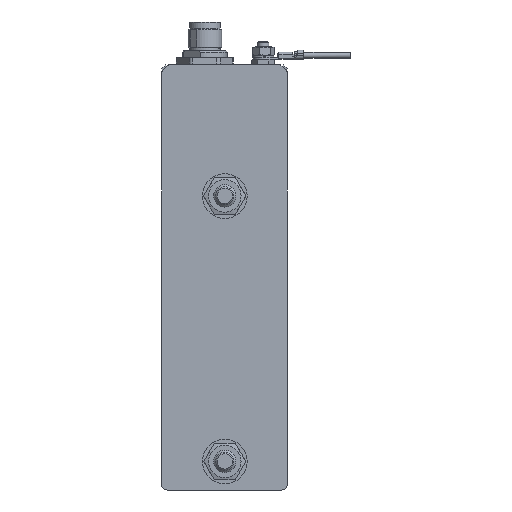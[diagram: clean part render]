
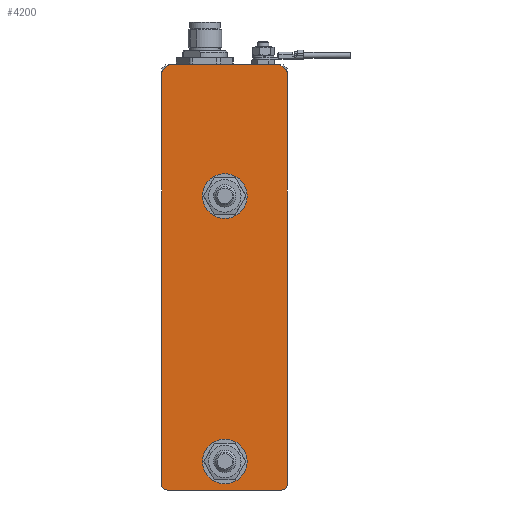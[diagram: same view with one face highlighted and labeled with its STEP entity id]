
A CAD part, top view. The second image highlights one B-rep face of the part: STEP entity #4200.
In plain terms, the highlighted planar face has unit normal (0, 0, 1).
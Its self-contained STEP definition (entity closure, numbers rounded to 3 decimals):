
#4200=ADVANCED_FACE('', (#4210,#4220,#4230), #4240, .T.);
#25350=AXIS2_PLACEMENT_3D('Ax2Pl3d', #25360, #25370, #25380);
#25430=AXIS2_PLACEMENT_3D('Ax2Pl3d', #25440, #25450, #25460);
#25670=AXIS2_PLACEMENT_3D('Ax2Pl3d', #25680, #25690, #25700);
#25710=AXIS2_PLACEMENT_3D('Ax2Pl3d', #25720, #25730, #25740);
#25750=AXIS2_PLACEMENT_3D('Ax2Pl3d', #25760, #25770, #25780);
#25790=AXIS2_PLACEMENT_3D('Ax2Pl3d', #25800, #25810, #25820);
#25830=AXIS2_PLACEMENT_3D('Ax2Pl3d', #25840, #25850, #25860);
#25870=AXIS2_PLACEMENT_3D('Ax2Pl3d', #25880, #25890, #25900);
#25910=AXIS2_PLACEMENT_3D('Ax2Pl3d', #25920, #25930, #25940);
#223910=CARTESIAN_POINT('', (131.169,79.78,103.854))
;
#223920=CARTESIAN_POINT('', (172.169,79.78,103.854))
;
#223930=CARTESIAN_POINT('', (131.169,79.78,103.854))
;
#25360=CARTESIAN_POINT('HicPkt', (131.169,81.78,
103.854));
#224180=CARTESIAN_POINT('', (129.169,81.78,103.854));
#224210=CARTESIAN_POINT('', (174.169,81.78,103.854))
;
#25440=CARTESIAN_POINT('HicPkt', (172.169,81.78,
103.854));
#224240=CARTESIAN_POINT('', (129.169,229.069,103.854))
;
#224280=CARTESIAN_POINT('', (129.169,81.78,103.854));
#224350=CARTESIAN_POINT('', (174.169,229.069,103.854))
;
#224370=CARTESIAN_POINT('', (174.169,81.78,103.854));
#25680=CARTESIAN_POINT('HicPkt', (129.169,229.069,
103.854));
#25720=CARTESIAN_POINT('HicPkt', (173.169,229.069,
103.854));
#224390=CARTESIAN_POINT('', (173.867,229.785,103.854))
;
#224400=CARTESIAN_POINT('', (173.867,229.785,103.854))
;
#224410=CARTESIAN_POINT('', (171.908,231.696,103.854))
;
#25760=CARTESIAN_POINT('HicPkt', (171.21,230.98,
103.854));
#224420=CARTESIAN_POINT('', (171.21,231.98,103.854));
#224430=CARTESIAN_POINT('', (132.129,231.98,103.854));
#224440=CARTESIAN_POINT('', (132.129,231.98,103.854))
;
#25800=CARTESIAN_POINT('HicPkt', (132.129,230.98,
103.854));
#224450=CARTESIAN_POINT('', (131.431,231.696,103.854))
;
#224460=CARTESIAN_POINT('', (131.431,231.696,103.854))
;
#224470=CARTESIAN_POINT('', (129.471,229.785,103.854))
;
#25840=CARTESIAN_POINT('HicPkt', (130.169,229.069,
103.854));
#25880=CARTESIAN_POINT('HicPkt', (151.794,184.98,
103.854));
#224480=CARTESIAN_POINT('', (151.794,189.48,103.854))
;
#25920=CARTESIAN_POINT('HicPkt', (151.794,89.98,
103.854));
#224490=CARTESIAN_POINT('', (151.794,94.48,103.854))
;
#234570=CIRCLE('Circle', #25870, 4.5);
#234580=CIRCLE('Circle', #25910, 4.5);
#269310=DIRECTION('', (-1.,0.,0.));
#25370=DIRECTION('Axis', (-0.,-0.,1.));
#25380=DIRECTION('RefDirection', (-0.707,-0.707,0.));
#25450=DIRECTION('Axis', (-0.,-0.,1.));
#25460=DIRECTION('RefDirection', (0.707,-0.707,0.));
#269510=DIRECTION('', (0.,-1.,0.));
#269550=DIRECTION('', (0.,-1.,0.));
#25690=DIRECTION('Axis', (0.,0.,1.));
#25700=DIRECTION('RefDirection', (1.,0.,-0.));
#25730=DIRECTION('Axis', (0.,0.,1.));
#25740=DIRECTION('RefDirection', (0.716,-0.698,0.));
#269570=DIRECTION('', (0.716,-0.698,0.));
#25770=DIRECTION('Axis', (0.,0.,1.));
#25780=DIRECTION('RefDirection', (0.716,-0.698,0.));
#269580=DIRECTION('', (-1.,0.,0.));
#25810=DIRECTION('Axis', (0.,0.,1.));
#25820=DIRECTION('RefDirection', (0.716,0.698,0.));
#269590=DIRECTION('', (0.716,0.698,0.));
#25850=DIRECTION('Axis', (0.,0.,1.));
#25860=DIRECTION('RefDirection', (-0.716,-0.698,0.));
#25890=DIRECTION('Axis', (0.,0.,1.));
#25900=DIRECTION('RefDirection', (1.,0.,-0.));
#25930=DIRECTION('Axis', (0.,0.,1.));
#25940=DIRECTION('RefDirection', (1.,0.,-0.));
#276620=EDGE_CURVE('', #276630, #276640, #276650, .T.);
#277080=EDGE_CURVE('', #277090, #276640, #277100, .T.);
#277160=EDGE_CURVE('', #276630, #277140, #277170, .T.);
#277270=EDGE_CURVE('', #277200, #277090, #277280, .T.);
#277420=EDGE_CURVE('', #277390, #277140, #277430, .T.);
#277460=EDGE_CURVE('', #277390, #277470, #277480, .T.);
#277490=EDGE_CURVE('', #277500, #277470, #277510, .T.);
#277520=EDGE_CURVE('', #277500, #277530, #277540, .T.);
#277550=EDGE_CURVE('', #277530, #277560, #277570, .T.);
#277580=EDGE_CURVE('', #277560, #277590, #277600, .T.);
#277610=EDGE_CURVE('', #277620, #277590, #277630, .T.);
#277640=EDGE_CURVE('', #277620, #277200, #277650, .T.);
#277660=EDGE_CURVE('', #277670, #277670, #234570, .T.);
#277680=EDGE_CURVE('', #277690, #277690, #234580, .T.);
#300070=EDGE_LOOP('Edge_loop', (#300080,#300090,#300100,#300110,#300120,
#300130,#300140,#300150,#300160,#300170,#300180,#300190));
#300200=EDGE_LOOP('Edge_loop', (#300210));
#300220=EDGE_LOOP('Edge_loop', (#300230));
#277100=ELLIPSE('Ellipse', #25350, 2., 2.);
#277170=ELLIPSE('Ellipse', #25430, 2., 2.);
#277480=ELLIPSE('Ellipse', #25710, 1., 1.);
#277540=ELLIPSE('Ellipse', #25750, 1., 1.);
#277600=ELLIPSE('Ellipse', #25790, 1., 1.);
#277650=ELLIPSE('Ellipse', #25830, 1., 1.);
#4220=FACE_BOUND('', #300200, .T.);
#4230=FACE_BOUND('', #300220, .T.);
#4210=FACE_OUTER_BOUND('Face_outer_bound', #300070, .T.);
#276650=LINE('Line', #223910, #329310);
#277280=LINE('Line', #224280, #329510);
#277430=LINE('Line', #224370, #329550);
#277510=LINE('Line', #224400, #329570);
#277570=LINE('Line', #224430, #329580);
#277630=LINE('Line', #224460, #329590);
#300080=ORIENTED_EDGE('', *, *, #277270, .T.);
#300090=ORIENTED_EDGE('', *, *, #277080, .T.);
#300100=ORIENTED_EDGE('', *, *, #276620, .F.);
#300110=ORIENTED_EDGE('', *, *, #277160, .T.);
#300120=ORIENTED_EDGE('', *, *, #277420, .F.);
#300130=ORIENTED_EDGE('', *, *, #277460, .T.);
#300140=ORIENTED_EDGE('', *, *, #277490, .F.);
#300150=ORIENTED_EDGE('', *, *, #277520, .T.);
#300160=ORIENTED_EDGE('', *, *, #277550, .T.);
#300170=ORIENTED_EDGE('', *, *, #277580, .T.);
#300180=ORIENTED_EDGE('', *, *, #277610, .F.);
#300190=ORIENTED_EDGE('', *, *, #277640, .T.);
#300210=ORIENTED_EDGE('', *, *, #277660, .F.);
#300230=ORIENTED_EDGE('', *, *, #277680, .F.);
#4240=PLANE('Plane', #25670);
#329310=VECTOR('', #269310, 41.);
#329510=VECTOR('', #269510, 147.29);
#329550=VECTOR('', #269550, 147.29);
#329570=VECTOR('', #269570, 2.737);
#329580=VECTOR('', #269580, 39.08);
#329590=VECTOR('', #269590, 2.737);
#276630=VERTEX_POINT('', #223920);
#276640=VERTEX_POINT('', #223930);
#277090=VERTEX_POINT('', #224180);
#277140=VERTEX_POINT('', #224210);
#277200=VERTEX_POINT('', #224240);
#277390=VERTEX_POINT('', #224350);
#277470=VERTEX_POINT('', #224390);
#277500=VERTEX_POINT('', #224410);
#277530=VERTEX_POINT('', #224420);
#277560=VERTEX_POINT('', #224440);
#277590=VERTEX_POINT('', #224450);
#277620=VERTEX_POINT('', #224470);
#277670=VERTEX_POINT('', #224480);
#277690=VERTEX_POINT('', #224490);
